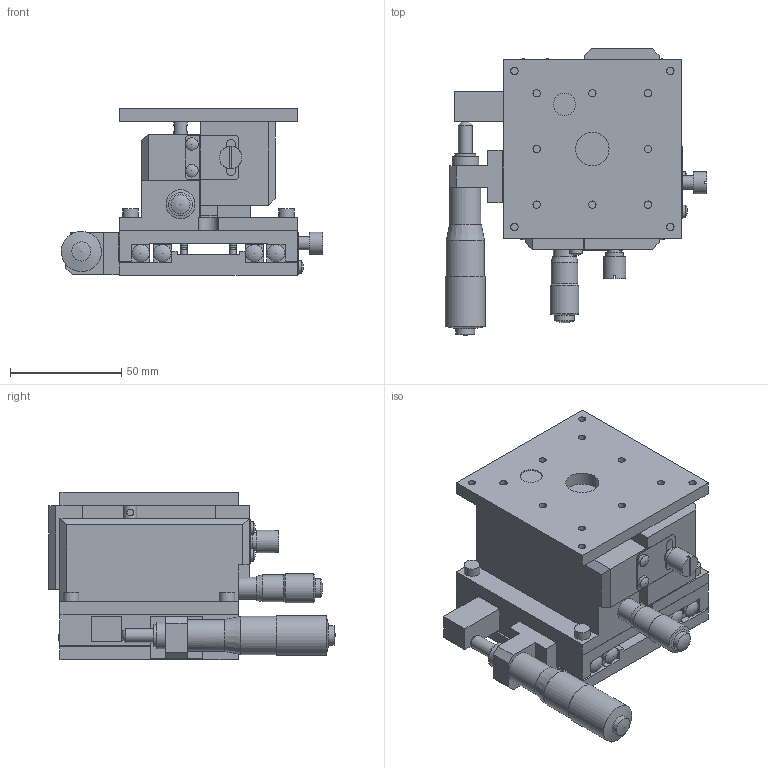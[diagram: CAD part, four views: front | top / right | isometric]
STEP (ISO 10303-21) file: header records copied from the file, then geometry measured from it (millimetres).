
FILE_DESCRIPTION( ( 'STEP AP203' ), '1' );
FILE_NAME( 'C:/3D-Trans/3D_B63-80C+090217.step', '2009-02-26T06:23:09', ( ' ' ), ( ' ' ), 'XStep 1.0', ' ', ' ' );
FILE_SCHEMA( ( 'CONFIG_CONTROL_DESIGN' ) );
Length unit declared in the file: millimetre
Products named in the file (7): 1; 2; 3; 4; 5; 6; 7
Bounding box: 117.29 x 128.5 x 75 mm (x, y, z)
Volume: 363469.8 mm3; surface area: 116527.9 mm2
Topology: 7 solids, 8 shells, 421 faces, 1073 edges, 707 vertices
Faces by surface type: plane 266, cylinder 123, sphere 17, cone 15
Full cylindrical faces by diameter (mm): 2 x4, 2.2 x2, 3 x10, 3.3 x24, 3.5 x2, 4 x1, 4.5 x4, 5 x4, 5.6 x4, 6 x3, 6.35 x2, 7 x4, 7.5 x1, 7.8 x8, 8 x9, 8.6 x2, 9 x1, 9.5 x2, 10 x6, 10.5 x1, 12 x3, 13 x1, 14 x1, 15 x2, 16.8 x1, 17.2 x1, 18 x1, 20 x1
Entity records: 12002 total; most frequent: CARTESIAN_POINT 2294, DIRECTION 1951, ORIENTED_EDGE 1688, EDGE_CURVE 844, AXIS2_PLACEMENT_3D 691, EDGE_LOOP 665, VERTEX_POINT 623, LINE 569
